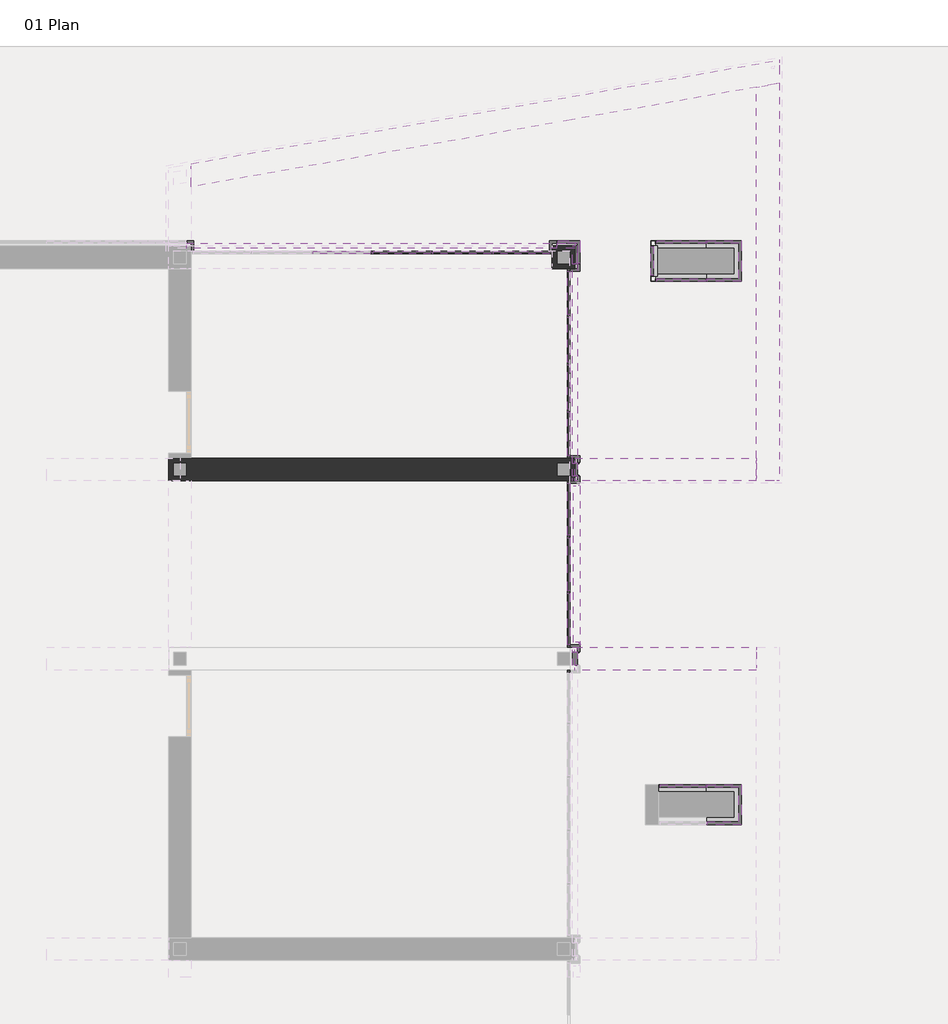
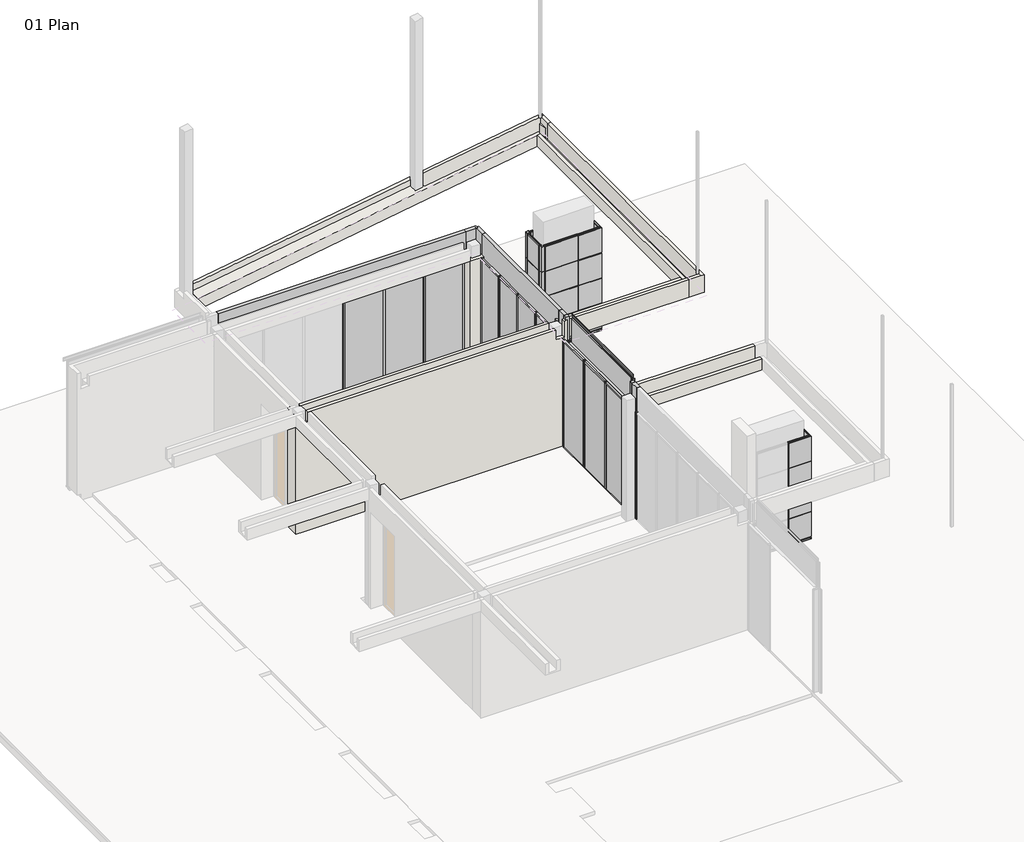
# One storey, part 4 of 5: 54 plates, 35 members, 6 walls.
"""IFC4 building model written with IfcOpenShell, lengths in millimetres."""

from ifc_helpers import new_model, si_unit, origin, place, context, project, spatial, faceted_brep, transform, mapped, element, save
from components import rectangular_mullion_f9ce9dc6, rectangular_mullion_e8d65c67, rectangular_mullion_c5e4a414, rectangular_mullion_c3e8b248, rectangular_mullion_bb8d6ff1, rectangular_mullion_e95caec2, rectangular_mullion_6a6b7c83, rectangular_mullion_8c2ecb36, rectangular_mullion_b7052393, rectangular_mullion_f1e0426e, rectangular_mullion_08edc9b5, rectangular_mullion_7d0be01b, rectangular_mullion_a8c58242, rectangular_mullion_3236e8af, plate_da8b7aa8, plate_97dfdc25, plate_eb0d2815, plate_6bd1128d, plate_987dd367, plate_21cbcbb2, plate_a826c487, plate_c5b51b30, plate_53742d8a, plate_d492e9c1, plate_1e91bede, plate_04bf2944, plate_0f2c33d4, plate_e64e6de2, plate_9abe25f3, plate_143d30e8, plate_e0696a3b, plate_b5d269c1, empty_system_panel_empty_786b6551, empty_system_panel_empty_7f93cfdc, empty_system_panel_empty_0363bcf5, empty_system_panel_empty_f8626ec1, empty_system_panel_empty_27e52b5e, empty_system_panel_empty_44f4aa2b, empty_system_panel_empty_4003d573, empty_system_panel_empty_db9f2a2a, empty_system_panel_empty_63036f14, empty_system_panel_empty_fa8af258, system_panel_6dfe1f31, system_panel_c846f28c, system_panel_06a197ed, system_panel_921365fd, system_panel_770c4b70, system_panel_3dbd57ef

model = new_model("IFC4")

# Units and contexts
model_context = context("Model", 3, world=origin())
ifc_project = project(units=[si_unit("LENGTHUNIT", "METRE", prefix="MILLI")], contexts=[model_context])

# Site, building, storey
site = spatial("IfcSite", under=ifc_project)
building = spatial("IfcBuilding", under=site)
storey = spatial("IfcBuildingStorey", under=building, Name="01 Plan", Elevation=-4000.0)

# Members
placement = place(None, origin())
rectangular_mullion_shape = rectangular_mullion_f9ce9dc6(model_context)
element("IfcMember", 1, ObjectType="Rectangular Mullion : Mullion_Curtain Wall_Generic Showcase_50x50mm", at=placement, inside=storey, context=model_context, shape_type="MappedRepresentation", body=[
    mapped(rectangular_mullion_shape, transform((3950.6615063, 4220.5895435, -650.0), x_axis=(0.0, 0.0, 1.0), y_axis=(-1.0, 0.0, 0.0), z_axis=(0.0, -1.0, 0.0))),
])
rectangular_mullion_2_shape = rectangular_mullion_e8d65c67(model_context)
element("IfcMember", 2, ObjectType="Rectangular Mullion : Mullion_Curtain Wall_Generic Showcase_50x50mm", at=placement, inside=storey, context=model_context, shape_type="MappedRepresentation", body=[
    mapped(rectangular_mullion_2_shape, transform((3600.6615063, 10945.5895435, -4100.0), x_axis=(1.0, 0.0, 0.0), y_axis=(0.0, -1.0, 0.0), z_axis=(0.0, 0.0, -1.0))),
])
element("IfcMember", 3, ObjectType="Rectangular Mullion : Mullion_Curtain Wall_Generic Showcase_50x50mm", at=placement, inside=storey, context=model_context, shape_type="MappedRepresentation", body=[
    mapped(rectangular_mullion_2_shape, transform((3950.6615063, 6845.5895435, -4100.0), x_axis=(0.0, -1.0, 0.0), y_axis=(-1.0, 0.0, 0.0), z_axis=(0.0, 0.0, -1.0))),
])
element("IfcMember", 4, ObjectType="Rectangular Mullion : Mullion_Curtain Wall_Generic Showcase_50x50mm", at=placement, inside=storey, context=model_context, shape_type="MappedRepresentation", body=[
    mapped(rectangular_mullion_2_shape, transform((3950.6615063, 3095.5895435, -4100.0), x_axis=(0.0, -1.0, 0.0), y_axis=(-1.0, 0.0, 0.0), z_axis=(0.0, 0.0, -1.0))),
])
element("IfcMember", 5, ObjectType="Rectangular Mullion : Mullion_Curtain Wall_Generic Showcase_50x50mm", at=placement, inside=storey, context=model_context, shape_type="MappedRepresentation", body=[
    mapped(rectangular_mullion_2_shape, transform((3950.6615063, 10595.5895435, -650.0), x_axis=(0.0, 1.0, 0.0), y_axis=(-1.0, 0.0, 0.0), z_axis=(0.0, 0.0, 1.0))),
])
element("IfcMember", 6, ObjectType="Rectangular Mullion : Mullion_Curtain Wall_Generic Showcase_50x50mm", at=placement, inside=storey, context=model_context, shape_type="MappedRepresentation", body=[
    mapped(rectangular_mullion_2_shape, transform((3950.6615063, 2645.5895435, -650.0), x_axis=(0.0, 1.0, 0.0), y_axis=(-1.0, 0.0, 0.0), z_axis=(0.0, 0.0, 1.0))),
])
element("IfcMember", 7, ObjectType="Rectangular Mullion : Mullion_Curtain Wall_Generic Showcase_50x50mm", at=placement, inside=storey, context=model_context, shape_type="MappedRepresentation", body=[
    mapped(rectangular_mullion_2_shape, transform((3950.6615063, 6395.5895435, -650.0), x_axis=(0.0, 1.0, 0.0), y_axis=(-1.0, 0.0, 0.0), z_axis=(0.0, 0.0, 1.0))),
])
rectangular_mullion_3_shape = rectangular_mullion_c5e4a414(model_context)
element("IfcMember", 8, ObjectType="Rectangular Mullion : Mullion_Curtain Wall_Generic Showcase_50x50mm", at=placement, inside=storey, context=model_context, shape_type="MappedRepresentation", body=[
    mapped(rectangular_mullion_3_shape, transform((3950.6615063, 7783.0895435, -4100.0), x_axis=(0.0, -1.0, 0.0), y_axis=(-1.0, 0.0, 0.0), z_axis=(0.0, 0.0, -1.0))),
])
element("IfcMember", 9, ObjectType="Rectangular Mullion : Mullion_Curtain Wall_Generic Showcase_50x50mm", at=placement, inside=storey, context=model_context, shape_type="MappedRepresentation", body=[
    mapped(rectangular_mullion_3_shape, transform((3950.6615063, 5295.5895435, -4100.0), x_axis=(0.0, -1.0, 0.0), y_axis=(-1.0, 0.0, 0.0), z_axis=(0.0, 0.0, -1.0))),
])
element("IfcMember", 10, ObjectType="Rectangular Mullion : Mullion_Curtain Wall_Generic Showcase_50x50mm", at=placement, inside=storey, context=model_context, shape_type="MappedRepresentation", body=[
    mapped(rectangular_mullion_3_shape, transform((3950.6615063, 4195.5895435, -4100.0), x_axis=(0.0, -1.0, 0.0), y_axis=(-1.0, 0.0, 0.0), z_axis=(0.0, 0.0, -1.0))),
])
element("IfcMember", 11, ObjectType="Rectangular Mullion : Mullion_Curtain Wall_Generic Showcase_50x50mm", at=placement, inside=storey, context=model_context, shape_type="MappedRepresentation", body=[
    mapped(rectangular_mullion_3_shape, transform((3950.6615063, 8720.5895435, -4100.0), x_axis=(0.0, -1.0, 0.0), y_axis=(-1.0, 0.0, 0.0), z_axis=(0.0, 0.0, -1.0))),
])
element("IfcMember", 12, ObjectType="Rectangular Mullion : Mullion_Curtain Wall_Generic Showcase_50x50mm", at=placement, inside=storey, context=model_context, shape_type="MappedRepresentation", body=[
    mapped(rectangular_mullion_3_shape, transform((3950.6615063, 9658.0895435, -4100.0), x_axis=(0.0, -1.0, 0.0), y_axis=(-1.0, 0.0, 0.0), z_axis=(0.0, 0.0, -1.0))),
])
element("IfcMember", 13, ObjectType="Rectangular Mullion : Mullion_Curtain Wall_Generic Showcase_50x50mm", at=placement, inside=storey, context=model_context, shape_type="MappedRepresentation", body=[
    mapped(rectangular_mullion_3_shape, transform((2408.9948396, 10945.5895435, -4100.0), x_axis=(1.0, 0.0, 0.0), y_axis=(0.0, -1.0, 0.0), z_axis=(0.0, 0.0, -1.0))),
])
element("IfcMember", 14, ObjectType="Rectangular Mullion : Mullion_Curtain Wall_Generic Showcase_50x50mm", at=placement, inside=storey, context=model_context, shape_type="MappedRepresentation", body=[
    mapped(rectangular_mullion_3_shape, transform((1217.328173, 10945.5895435, -4100.0), x_axis=(1.0, 0.0, 0.0), y_axis=(0.0, -1.0, 0.0), z_axis=(0.0, 0.0, -1.0))),
])
element("IfcMember", 15, ObjectType="Rectangular Mullion : Mullion_Curtain Wall_Generic Showcase_50x50mm", at=placement, inside=storey, context=model_context, shape_type="MappedRepresentation", body=[
    mapped(rectangular_mullion_3_shape, transform((25.6615063, 10945.5895435, -4100.0), x_axis=(1.0, 0.0, 0.0), y_axis=(0.0, -1.0, 0.0), z_axis=(0.0, 0.0, -1.0))),
])
rectangular_mullion_4_shape = rectangular_mullion_c3e8b248(model_context)
element("IfcMember", 16, ObjectType="Rectangular Mullion : Mullion_Curtain Wall_Generic Showcase_50x100mm", at=placement, inside=storey, context=model_context, shape_type="MappedRepresentation", body=[
    mapped(rectangular_mullion_4_shape, transform((3950.6615063, 5270.5895435, -4100.0), x_axis=(0.0, 0.0, -1.0), y_axis=(-1.0, 0.0, 0.0), z_axis=(0.0, 1.0, 0.0))),
])
rectangular_mullion_5_shape = rectangular_mullion_bb8d6ff1(model_context)
element("IfcMember", 17, ObjectType="Rectangular Mullion : Mullion_Curtain Wall_Generic Showcase_50x50mm", at=placement, inside=storey, context=model_context, shape_type="MappedRepresentation", body=[
    mapped(rectangular_mullion_5_shape, transform((2383.9948396, 10945.5895435, -650.0), x_axis=(0.0, 0.0, 1.0), y_axis=(0.0, -1.0, 0.0), z_axis=(1.0, 0.0, 0.0))),
])
element("IfcMember", 18, ObjectType="Rectangular Mullion : Mullion_Curtain Wall_Generic Showcase_50x50mm", at=placement, inside=storey, context=model_context, shape_type="MappedRepresentation", body=[
    mapped(rectangular_mullion_5_shape, transform((1192.328173, 10945.5895435, -650.0), x_axis=(0.0, 0.0, 1.0), y_axis=(0.0, -1.0, 0.0), z_axis=(1.0, 0.0, 0.0))),
])
element("IfcMember", 19, ObjectType="Rectangular Mullion : Mullion_Curtain Wall_Generic Showcase_50x50mm", at=placement, inside=storey, context=model_context, shape_type="MappedRepresentation", body=[
    mapped(rectangular_mullion_5_shape, transform((0.6615063, 10945.5895435, -650.0), x_axis=(0.0, 0.0, 1.0), y_axis=(0.0, -1.0, 0.0), z_axis=(1.0, 0.0, 0.0))),
])
rectangular_mullion_6_shape = rectangular_mullion_e95caec2(model_context)
element("IfcMember", 20, ObjectType="Rectangular Mullion : Mullion_Curtain Wall_Generic Showcase_50x100mm", at=placement, inside=storey, context=model_context, shape_type="MappedRepresentation", body=[
    mapped(rectangular_mullion_6_shape, transform((1242.328173, 10945.5895435, -4100.0), x_axis=(0.0, 0.0, -1.0), y_axis=(0.0, -1.0, 0.0), z_axis=(-1.0, 0.0, 0.0))),
])
element("IfcMember", 21, ObjectType="Rectangular Mullion : Mullion_Curtain Wall_Generic Showcase_50x100mm", at=placement, inside=storey, context=model_context, shape_type="MappedRepresentation", body=[
    mapped(rectangular_mullion_6_shape, transform((50.6615063, 10945.5895435, -4100.0), x_axis=(0.0, 0.0, -1.0), y_axis=(0.0, -1.0, 0.0), z_axis=(-1.0, 0.0, 0.0))),
])
rectangular_mullion_7_shape = rectangular_mullion_6a6b7c83(model_context)
element("IfcMember", 22, ObjectType="Rectangular Mullion : Mullion_Curtain Wall_Generic Showcase_50x50mm", at=placement, inside=storey, context=model_context, shape_type="MappedRepresentation", body=[
    mapped(rectangular_mullion_7_shape, transform((3950.6615063, 6895.5895435, -650.0), x_axis=(0.0, 0.0, 1.0), y_axis=(-1.0, 0.0, 0.0), z_axis=(0.0, -1.0, 0.0))),
])
element("IfcMember", 23, ObjectType="Rectangular Mullion : Mullion_Curtain Wall_Generic Showcase_50x50mm", at=placement, inside=storey, context=model_context, shape_type="MappedRepresentation", body=[
    mapped(rectangular_mullion_7_shape, transform((3950.6615063, 9683.0895435, -650.0), x_axis=(0.0, 0.0, 1.0), y_axis=(-1.0, 0.0, 0.0), z_axis=(0.0, -1.0, 0.0))),
])
rectangular_mullion_8_shape = rectangular_mullion_8c2ecb36(model_context)
element("IfcMember", 24, ObjectType="Rectangular Mullion : Mullion_Curtain Wall_Generic Showcase_50x50mm", at=placement, inside=storey, context=model_context, shape_type="MappedRepresentation", body=[
    mapped(rectangular_mullion_8_shape, transform((3950.6615063, 7808.0895435, -650.0), x_axis=(0.0, 0.0, 1.0), y_axis=(-1.0, 0.0, 0.0), z_axis=(0.0, -1.0, 0.0))),
])
element("IfcMember", 25, ObjectType="Rectangular Mullion : Mullion_Curtain Wall_Generic Showcase_50x50mm", at=placement, inside=storey, context=model_context, shape_type="MappedRepresentation", body=[
    mapped(rectangular_mullion_8_shape, transform((3950.6615063, 8745.5895435, -650.0), x_axis=(0.0, 0.0, 1.0), y_axis=(-1.0, 0.0, 0.0), z_axis=(0.0, -1.0, 0.0))),
])
rectangular_mullion_9_shape = rectangular_mullion_b7052393(model_context)
element("IfcMember", 26, ObjectType="Rectangular Mullion : Mullion_Curtain Wall_Generic Showcase_50x100mm", at=placement, inside=storey, context=model_context, shape_type="MappedRepresentation", body=[
    mapped(rectangular_mullion_9_shape, transform((3950.6615063, 10545.5895435, -4100.0), x_axis=(0.0, 0.0, -1.0), y_axis=(-1.0, 0.0, 0.0), z_axis=(0.0, 1.0, 0.0))),
])
element("IfcMember", 27, ObjectType="Rectangular Mullion : Mullion_Curtain Wall_Generic Showcase_50x100mm", at=placement, inside=storey, context=model_context, shape_type="MappedRepresentation", body=[
    mapped(rectangular_mullion_9_shape, transform((3950.6615063, 7758.0895435, -4100.0), x_axis=(0.0, 0.0, -1.0), y_axis=(-1.0, 0.0, 0.0), z_axis=(0.0, 1.0, 0.0))),
])
rectangular_mullion_10_shape = rectangular_mullion_f1e0426e(model_context)
element("IfcMember", 28, ObjectType="Rectangular Mullion : Mullion_Curtain Wall_Generic Showcase_50x100mm", at=placement, inside=storey, context=model_context, shape_type="MappedRepresentation", body=[
    mapped(rectangular_mullion_10_shape, transform((3950.6615063, 8695.5895435, -4100.0), x_axis=(0.0, 0.0, -1.0), y_axis=(-1.0, 0.0, 0.0), z_axis=(0.0, 1.0, 0.0))),
])
element("IfcMember", 29, ObjectType="Rectangular Mullion : Mullion_Curtain Wall_Generic Showcase_50x100mm", at=placement, inside=storey, context=model_context, shape_type="MappedRepresentation", body=[
    mapped(rectangular_mullion_10_shape, transform((3950.6615063, 9633.0895435, -4100.0), x_axis=(0.0, 0.0, -1.0), y_axis=(-1.0, 0.0, 0.0), z_axis=(0.0, 1.0, 0.0))),
])
rectangular_mullion_11_shape = rectangular_mullion_08edc9b5(model_context)
element("IfcMember", 30, ObjectType="Rectangular Mullion : Mullion_Curtain Wall_Generic Showcase_50x50mm", at=placement, inside=storey, context=model_context, shape_type="MappedRepresentation", body=[
    mapped(rectangular_mullion_11_shape, transform((3550.6615063, 10945.5895435, -650.0), x_axis=(0.0, 0.0, 1.0), y_axis=(0.0, -1.0, 0.0), z_axis=(1.0, 0.0, 0.0))),
])
rectangular_mullion_12_shape = rectangular_mullion_7d0be01b(model_context)
element("IfcMember", 31, ObjectType="Rectangular Mullion : Mullion_Curtain Wall_Generic Showcase_50x100mm", at=placement, inside=storey, context=model_context, shape_type="MappedRepresentation", body=[
    mapped(rectangular_mullion_12_shape, transform((2433.9948396, 10945.5895435, -4100.0), x_axis=(0.0, 0.0, -1.0), y_axis=(0.0, -1.0, 0.0), z_axis=(-1.0, 0.0, 0.0))),
])
rectangular_mullion_13_shape = rectangular_mullion_a8c58242(model_context)
element("IfcMember", 32, ObjectType="Rectangular Mullion : Mullion_Curtain Wall_Generic Showcase_50x50mm", at=placement, inside=storey, context=model_context, shape_type="MappedRepresentation", body=[
    mapped(rectangular_mullion_13_shape, transform((3950.6615063, 3145.5895435, -650.0), x_axis=(0.0, 0.0, 1.0), y_axis=(-1.0, 0.0, 0.0), z_axis=(0.0, -1.0, 0.0))),
])
element("IfcMember", 33, ObjectType="Rectangular Mullion : Mullion_Curtain Wall_Generic Showcase_50x50mm", at=placement, inside=storey, context=model_context, shape_type="MappedRepresentation", body=[
    mapped(rectangular_mullion_13_shape, transform((3950.6615063, 5320.5895435, -650.0), x_axis=(0.0, 0.0, 1.0), y_axis=(-1.0, 0.0, 0.0), z_axis=(0.0, -1.0, 0.0))),
])
rectangular_mullion_14_shape = rectangular_mullion_3236e8af(model_context)
element("IfcMember", 34, ObjectType="Rectangular Mullion : Mullion_Curtain Wall_Generic Showcase_50x100mm", at=placement, inside=storey, context=model_context, shape_type="MappedRepresentation", body=[
    mapped(rectangular_mullion_14_shape, transform((3950.6615063, 6345.5895435, -4100.0), x_axis=(0.0, 0.0, -1.0), y_axis=(-1.0, 0.0, 0.0), z_axis=(0.0, 1.0, 0.0))),
])
element("IfcMember", 35, ObjectType="Rectangular Mullion : Mullion_Curtain Wall_Generic Showcase_50x100mm", at=placement, inside=storey, context=model_context, shape_type="MappedRepresentation", body=[
    mapped(rectangular_mullion_14_shape, transform((3950.6615063, 4170.5895435, -4100.0), x_axis=(0.0, 0.0, -1.0), y_axis=(-1.0, 0.0, 0.0), z_axis=(0.0, 1.0, 0.0))),
])

# Plates
plate_shape = plate_da8b7aa8(model_context)
element("IfcPlate", 36, ObjectType="Trimo_Qbiss Screen_Normal Panel-HORIZONTAL : HR - B", at=placement, inside=storey, context=model_context, shape_type="MappedRepresentation", body=[
    mapped(plate_shape, transform((4050.6615063, 4745.5895435, -748.2), x_axis=(0.0, -1.0, 0.0), y_axis=(1.0, 0.0, 0.0), z_axis=(0.0, 0.0, 1.0))),
])
plate_2_shape = plate_97dfdc25(model_context)
element("IfcPlate", 37, ObjectType="Trimo_Qbiss Screen_L Corner Panel-HORIZONTAL : HR - B", at=placement, inside=storey, context=model_context, shape_type="MappedRepresentation", body=[
    mapped(plate_2_shape, transform((3874.4115063, 11045.5895435, -3112.05), x_axis=(1.0, 0.0, 0.0), y_axis=(0.0, 1.0, 0.0), z_axis=(0.0, 0.0, 1.0))),
])
element("IfcPlate", 38, ObjectType="Trimo_Qbiss Screen_L Corner Panel-HORIZONTAL : HR - B", at=placement, inside=storey, context=model_context, shape_type="MappedRepresentation", body=[
    mapped(plate_2_shape, transform((3874.4115063, 11045.5895435, -2324.1), x_axis=(1.0, 0.0, 0.0), y_axis=(0.0, 1.0, 0.0), z_axis=(0.0, 0.0, 1.0))),
])
element("IfcPlate", 39, ObjectType="Trimo_Qbiss Screen_L Corner Panel-HORIZONTAL : HR - B", at=placement, inside=storey, context=model_context, shape_type="MappedRepresentation", body=[
    mapped(plate_2_shape, transform((3874.4115063, 11045.5895435, -1536.15), x_axis=(1.0, 0.0, 0.0), y_axis=(0.0, 1.0, 0.0), z_axis=(0.0, 0.0, 1.0))),
])
plate_3_shape = plate_eb0d2815(model_context)
element("IfcPlate", 40, ObjectType="Trimo_Qbiss Screen_L Corner Panel-HORIZONTAL : HR - B", at=placement, inside=storey, context=model_context, shape_type="MappedRepresentation", body=[
    mapped(plate_3_shape, transform((3874.4115063, 11045.5895435, -3900.0), x_axis=(1.0, 0.0, 0.0), y_axis=(0.0, 1.0, 0.0), z_axis=(0.0, 0.0, 1.0))),
])
plate_4_shape = plate_6bd1128d(model_context)
element("IfcPlate", 41, ObjectType="Trimo_Qbiss Screen_Normal Panel-HORIZONTAL : HR - B", at=placement, inside=storey, context=model_context, shape_type="MappedRepresentation", body=[
    mapped(plate_4_shape, transform((5700.6615063, 10748.0895435, -1536.15), x_axis=(0.0, 1.0, 0.0), y_axis=(-1.0, 0.0, 0.0), z_axis=(0.0, 0.0, 1.0))),
])
element("IfcPlate", 42, ObjectType="Trimo_Qbiss Screen_Normal Panel-HORIZONTAL : HR - B", at=placement, inside=storey, context=model_context, shape_type="MappedRepresentation", body=[
    mapped(plate_4_shape, transform((5700.6615063, 10748.0895435, -2324.1), x_axis=(0.0, 1.0, 0.0), y_axis=(-1.0, 0.0, 0.0), z_axis=(0.0, 0.0, 1.0))),
])
element("IfcPlate", 43, ObjectType="Trimo_Qbiss Screen_Normal Panel-HORIZONTAL : HR - B", at=placement, inside=storey, context=model_context, shape_type="MappedRepresentation", body=[
    mapped(plate_4_shape, transform((5700.6615063, 10748.0895435, -3112.05), x_axis=(0.0, 1.0, 0.0), y_axis=(-1.0, 0.0, 0.0), z_axis=(0.0, 0.0, 1.0))),
])
plate_5_shape = plate_987dd367(model_context)
element("IfcPlate", 44, ObjectType="Trimo_Qbiss Screen_Normal Panel-HORIZONTAL : HR - B", at=placement, inside=storey, context=model_context, shape_type="MappedRepresentation", body=[
    mapped(plate_5_shape, transform((6179.4115063, 11000.5895435, -2324.1), x_axis=(1.0, 0.0, 0.0), y_axis=(0.0, 1.0, 0.0), z_axis=(0.0, 0.0, 1.0))),
])
element("IfcPlate", 45, ObjectType="Trimo_Qbiss Screen_Normal Panel-HORIZONTAL : HR - B", at=placement, inside=storey, context=model_context, shape_type="MappedRepresentation", body=[
    mapped(plate_5_shape, transform((6179.4115063, 11000.5895435, -1536.15), x_axis=(1.0, 0.0, 0.0), y_axis=(0.0, 1.0, 0.0), z_axis=(0.0, 0.0, 1.0))),
])
element("IfcPlate", 46, ObjectType="Trimo_Qbiss Screen_Normal Panel-HORIZONTAL : HR - B", at=placement, inside=storey, context=model_context, shape_type="MappedRepresentation", body=[
    mapped(plate_5_shape, transform((6179.4115063, 11000.5895435, -3112.05), x_axis=(1.0, 0.0, 0.0), y_axis=(0.0, 1.0, 0.0), z_axis=(0.0, 0.0, 1.0))),
])
plate_6_shape = plate_21cbcbb2(model_context)
element("IfcPlate", 47, ObjectType="Trimo_Qbiss Screen_Normal Panel-HORIZONTAL : HR - B", at=placement, inside=storey, context=model_context, shape_type="MappedRepresentation", body=[
    mapped(plate_6_shape, transform((6179.4115063, 11000.5895435, -3900.0), x_axis=(1.0, 0.0, 0.0), y_axis=(0.0, 1.0, 0.0), z_axis=(0.0, 0.0, 1.0))),
])
plate_7_shape = plate_a826c487(model_context)
element("IfcPlate", 48, ObjectType="Trimo_Qbiss Screen_Normal Panel-HORIZONTAL : HR - B", at=placement, inside=storey, context=model_context, shape_type="MappedRepresentation", body=[
    mapped(plate_7_shape, transform((5700.6615063, 10748.0895435, -3900.0), x_axis=(0.0, 1.0, 0.0), y_axis=(-1.0, 0.0, 0.0), z_axis=(0.0, 0.0, 1.0))),
])
plate_8_shape = plate_c5b51b30(model_context)
element("IfcPlate", 49, ObjectType="Trimo_Qbiss Screen_Normal Panel-HORIZONTAL : HR - B", at=placement, inside=storey, context=model_context, shape_type="MappedRepresentation", body=[
    mapped(plate_8_shape, transform((6179.4115063, 10495.5895435, -3900.0), x_axis=(-1.0, 0.0, 0.0), y_axis=(0.0, -1.0, 0.0), z_axis=(0.0, 0.0, 1.0))),
])
plate_9_shape = plate_53742d8a(model_context)
element("IfcPlate", 50, ObjectType="Trimo_Qbiss Screen_Normal Panel-HORIZONTAL : HR - B", at=placement, inside=storey, context=model_context, shape_type="MappedRepresentation", body=[
    mapped(plate_9_shape, transform((6179.4115063, 10495.5895435, -2324.1), x_axis=(-1.0, 0.0, 0.0), y_axis=(0.0, -1.0, 0.0), z_axis=(0.0, 0.0, 1.0))),
])
element("IfcPlate", 51, ObjectType="Trimo_Qbiss Screen_Normal Panel-HORIZONTAL : HR - B", at=placement, inside=storey, context=model_context, shape_type="MappedRepresentation", body=[
    mapped(plate_9_shape, transform((6179.4115063, 10495.5895435, -1536.15), x_axis=(-1.0, 0.0, 0.0), y_axis=(0.0, -1.0, 0.0), z_axis=(0.0, 0.0, 1.0))),
])
element("IfcPlate", 52, ObjectType="Trimo_Qbiss Screen_Normal Panel-HORIZONTAL : HR - B", at=placement, inside=storey, context=model_context, shape_type="MappedRepresentation", body=[
    mapped(plate_9_shape, transform((6179.4115063, 10495.5895435, -3112.05), x_axis=(-1.0, 0.0, 0.0), y_axis=(0.0, -1.0, 0.0), z_axis=(0.0, 0.0, 1.0))),
])
plate_10_shape = plate_d492e9c1(model_context)
element("IfcPlate", 53, ObjectType="Trimo_Qbiss Screen_Wall Opening Trims-HORIZONTAL : HR - B", at=placement, inside=storey, context=model_context, shape_type="MappedRepresentation", body=[
    mapped(plate_10_shape, transform((25.6615063, 11045.5895435, -4000.0), x_axis=(1.0, 0.0, 0.0), y_axis=(0.0, 1.0, 0.0), z_axis=(0.0, 0.0, 1.0))),
])
plate_11_shape = plate_1e91bede(model_context)
element("IfcPlate", 54, ObjectType="Trimo_Qbiss Screen_Wall Opening Trims-HORIZONTAL : HR - B", at=placement, inside=storey, context=model_context, shape_type="MappedRepresentation", body=[
    mapped(plate_11_shape, transform((4050.6615063, 4745.5895435, -4000.0), x_axis=(0.0, -1.0, 0.0), y_axis=(1.0, 0.0, 0.0), z_axis=(0.0, 0.0, 1.0))),
])
plate_12_shape = plate_04bf2944(model_context)
element("IfcPlate", 55, ObjectType="Trimo_Qbiss Screen_Wall Opening Trims-HORIZONTAL : HR - B", at=placement, inside=storey, context=model_context, shape_type="MappedRepresentation", body=[
    mapped(plate_12_shape, transform((4050.6615063, 8720.1895435, -4000.0), x_axis=(0.0, -1.0, 0.0), y_axis=(1.0, 0.0, 0.0), z_axis=(0.0, 0.0, 1.0))),
])
plate_13_shape = plate_0f2c33d4(model_context)
element("IfcPlate", 56, ObjectType="Trimo_Qbiss Screen_U Corner Panel-HORIZONTAL : HR - B", at=placement, inside=storey, context=model_context, shape_type="MappedRepresentation", body=[
    mapped(plate_13_shape, transform((6970.6615063, 11000.5895435, -3900.0), x_axis=(1.0, 0.0, 0.0), y_axis=(0.0, 1.0, 0.0), z_axis=(0.0, 0.0, 1.0))),
])
plate_14_shape = plate_e64e6de2(model_context)
element("IfcPlate", 57, ObjectType="Trimo_Qbiss Screen_U Corner Panel-HORIZONTAL : HR - B", at=placement, inside=storey, context=model_context, shape_type="MappedRepresentation", body=[
    mapped(plate_14_shape, transform((6970.6615063, 11000.5895435, -1536.15), x_axis=(1.0, 0.0, 0.0), y_axis=(0.0, 1.0, 0.0), z_axis=(0.0, 0.0, 1.0))),
])
element("IfcPlate", 58, ObjectType="Trimo_Qbiss Screen_U Corner Panel-HORIZONTAL : HR - B", at=placement, inside=storey, context=model_context, shape_type="MappedRepresentation", body=[
    mapped(plate_14_shape, transform((6970.6615063, 11000.5895435, -2324.1), x_axis=(1.0, 0.0, 0.0), y_axis=(0.0, 1.0, 0.0), z_axis=(0.0, 0.0, 1.0))),
])
element("IfcPlate", 59, ObjectType="Trimo_Qbiss Screen_U Corner Panel-HORIZONTAL : HR - B", at=placement, inside=storey, context=model_context, shape_type="MappedRepresentation", body=[
    mapped(plate_14_shape, transform((6970.6615063, 11000.5895435, -3112.05), x_axis=(1.0, 0.0, 0.0), y_axis=(0.0, 1.0, 0.0), z_axis=(0.0, 0.0, 1.0))),
])
plate_15_shape = plate_9abe25f3(model_context)
element("IfcPlate", 60, ObjectType="Trimo_Qbiss Screen_Normal Panel-HORIZONTAL : HR - B", at=placement, inside=storey, context=model_context, shape_type="MappedRepresentation", body=[
    mapped(plate_15_shape, transform((6179.4115063, 233.0895435, -3900.0), x_axis=(1.0, 0.0, 0.0), y_axis=(0.0, 1.0, 0.0), z_axis=(0.0, 0.0, 1.0))),
])
plate_16_shape = plate_143d30e8(model_context)
element("IfcPlate", 61, ObjectType="Trimo_Qbiss Screen_Normal Panel-HORIZONTAL : HR - B", at=placement, inside=storey, context=model_context, shape_type="MappedRepresentation", body=[
    mapped(plate_16_shape, transform((6179.4115063, 233.0895435, -2324.1), x_axis=(1.0, 0.0, 0.0), y_axis=(0.0, 1.0, 0.0), z_axis=(0.0, 0.0, 1.0))),
])
element("IfcPlate", 62, ObjectType="Trimo_Qbiss Screen_Normal Panel-HORIZONTAL : HR - B", at=placement, inside=storey, context=model_context, shape_type="MappedRepresentation", body=[
    mapped(plate_16_shape, transform((6179.4115063, 233.0895435, -1536.15), x_axis=(1.0, 0.0, 0.0), y_axis=(0.0, 1.0, 0.0), z_axis=(0.0, 0.0, 1.0))),
])
element("IfcPlate", 63, ObjectType="Trimo_Qbiss Screen_Normal Panel-HORIZONTAL : HR - B", at=placement, inside=storey, context=model_context, shape_type="MappedRepresentation", body=[
    mapped(plate_16_shape, transform((6179.4115063, 233.0895435, -3112.05), x_axis=(1.0, 0.0, 0.0), y_axis=(0.0, 1.0, 0.0), z_axis=(0.0, 0.0, 1.0))),
])
plate_17_shape = plate_e0696a3b(model_context)
element("IfcPlate", 64, ObjectType="Trimo_Qbiss Screen_U Corner Panel-HORIZONTAL : HR - B", at=placement, inside=storey, context=model_context, shape_type="MappedRepresentation", body=[
    mapped(plate_17_shape, transform((6970.6615063, 233.0895435, -1536.15), x_axis=(1.0, 0.0, 0.0), y_axis=(0.0, 1.0, 0.0), z_axis=(0.0, 0.0, 1.0))),
])
element("IfcPlate", 65, ObjectType="Trimo_Qbiss Screen_U Corner Panel-HORIZONTAL : HR - B", at=placement, inside=storey, context=model_context, shape_type="MappedRepresentation", body=[
    mapped(plate_17_shape, transform((6970.6615063, 233.0895435, -2324.1), x_axis=(1.0, 0.0, 0.0), y_axis=(0.0, 1.0, 0.0), z_axis=(0.0, 0.0, 1.0))),
])
element("IfcPlate", 66, ObjectType="Trimo_Qbiss Screen_U Corner Panel-HORIZONTAL : HR - B", at=placement, inside=storey, context=model_context, shape_type="MappedRepresentation", body=[
    mapped(plate_17_shape, transform((6970.6615063, 233.0895435, -3112.05), x_axis=(1.0, 0.0, 0.0), y_axis=(0.0, 1.0, 0.0), z_axis=(0.0, 0.0, 1.0))),
])
plate_18_shape = plate_b5d269c1(model_context)
element("IfcPlate", 67, ObjectType="Trimo_Qbiss Screen_U Corner Panel-HORIZONTAL : HR - B", at=placement, inside=storey, context=model_context, shape_type="MappedRepresentation", body=[
    mapped(plate_18_shape, transform((6970.6615063, 233.0895435, -3900.0), x_axis=(1.0, 0.0, 0.0), y_axis=(0.0, 1.0, 0.0), z_axis=(0.0, 0.0, 1.0))),
])
empty_system_panel_empty_shape = empty_system_panel_empty_786b6551(model_context)
element("IfcPlate", 68, ObjectType="Empty System Panel : Empty", at=placement, inside=storey, context=model_context, shape_type="MappedRepresentation", body=[
    mapped(empty_system_panel_empty_shape, transform((25.6615063, 11045.5895435, -748.2), x_axis=(1.0, 0.0, 0.0), y_axis=(0.0, 1.0, 0.0), z_axis=(0.0, 0.0, 1.0))),
])
empty_system_panel_empty_2_shape = empty_system_panel_empty_7f93cfdc(model_context)
element("IfcPlate", 69, ObjectType="Empty System Panel : Empty", at=placement, inside=storey, context=model_context, shape_type="MappedRepresentation", body=[
    mapped(empty_system_panel_empty_2_shape, transform((3874.4115063, 11045.5895435, -748.2), x_axis=(1.0, 0.0, 0.0), y_axis=(0.0, 1.0, 0.0), z_axis=(0.0, 0.0, 1.0))),
])
element("IfcPlate", 70, ObjectType="Empty System Panel : Empty", at=placement, inside=storey, context=model_context, shape_type="MappedRepresentation", body=[
    mapped(empty_system_panel_empty_2_shape, transform((4050.6615063, 10869.3395435, -748.2), x_axis=(0.0, -1.0, 0.0), y_axis=(1.0, 0.0, 0.0), z_axis=(0.0, 0.0, 1.0))),
])
empty_system_panel_empty_3_shape = empty_system_panel_empty_0363bcf5(model_context)
element("IfcPlate", 71, ObjectType="Empty System Panel : Empty", at=placement, inside=storey, context=model_context, shape_type="MappedRepresentation", body=[
    mapped(empty_system_panel_empty_3_shape, transform((4050.6615063, 2870.5895435, -748.2), x_axis=(0.0, -1.0, 0.0), y_axis=(1.0, 0.0, 0.0), z_axis=(0.0, 0.0, 1.0))),
])
empty_system_panel_empty_4_shape = empty_system_panel_empty_f8626ec1(model_context)
element("IfcPlate", 72, ObjectType="Empty System Panel : Empty", at=placement, inside=storey, context=model_context, shape_type="MappedRepresentation", body=[
    mapped(empty_system_panel_empty_4_shape, transform((4050.6615063, 6444.3395435, -748.2), x_axis=(0.0, -1.0, 0.0), y_axis=(1.0, 0.0, 0.0), z_axis=(0.0, 0.0, 1.0))),
])
element("IfcPlate", 73, ObjectType="Empty System Panel : Empty", at=placement, inside=storey, context=model_context, shape_type="MappedRepresentation", body=[
    mapped(empty_system_panel_empty_4_shape, transform((4050.6615063, 3046.8395435, -748.2), x_axis=(0.0, -1.0, 0.0), y_axis=(1.0, 0.0, 0.0), z_axis=(0.0, 0.0, 1.0))),
])
empty_system_panel_empty_5_shape = empty_system_panel_empty_27e52b5e(model_context)
element("IfcPlate", 74, ObjectType="Empty System Panel : Empty", at=placement, inside=storey, context=model_context, shape_type="MappedRepresentation", body=[
    mapped(empty_system_panel_empty_5_shape, transform((4050.6615063, 8720.1895435, -748.2), x_axis=(0.0, -1.0, 0.0), y_axis=(1.0, 0.0, 0.0), z_axis=(0.0, 0.0, 1.0))),
])
empty_system_panel_empty_6_shape = empty_system_panel_empty_44f4aa2b(model_context)
element("IfcPlate", 75, ObjectType="Empty System Panel : Empty", at=placement, inside=storey, context=model_context, shape_type="MappedRepresentation", body=[
    mapped(empty_system_panel_empty_6_shape, transform((4050.6615063, 6620.1895435, -748.2), x_axis=(0.0, -1.0, 0.0), y_axis=(1.0, 0.0, 0.0), z_axis=(0.0, 0.0, 1.0))),
])
empty_system_panel_empty_7_shape = empty_system_panel_empty_4003d573(model_context)
element("IfcPlate", 76, ObjectType="Empty System Panel : Empty", at=placement, inside=storey, context=model_context, shape_type="MappedRepresentation", body=[
    mapped(empty_system_panel_empty_7_shape, transform((3874.4115063, 11045.5895435, -4000.0), x_axis=(1.0, 0.0, 0.0), y_axis=(0.0, 1.0, 0.0), z_axis=(0.0, 0.0, 1.0))),
])
empty_system_panel_empty_8_shape = empty_system_panel_empty_db9f2a2a(model_context)
element("IfcPlate", 77, ObjectType="Empty System Panel : Empty", at=placement, inside=storey, context=model_context, shape_type="MappedRepresentation", body=[
    mapped(empty_system_panel_empty_8_shape, transform((4050.6615063, 10869.3395435, -4000.0), x_axis=(0.0, -1.0, 0.0), y_axis=(1.0, 0.0, 0.0), z_axis=(0.0, 0.0, 1.0))),
])
empty_system_panel_empty_9_shape = empty_system_panel_empty_63036f14(model_context)
element("IfcPlate", 78, ObjectType="Empty System Panel : Empty", at=placement, inside=storey, context=model_context, shape_type="MappedRepresentation", body=[
    mapped(empty_system_panel_empty_9_shape, transform((4050.6615063, 2870.5895435, -4000.0), x_axis=(0.0, -1.0, 0.0), y_axis=(1.0, 0.0, 0.0), z_axis=(0.0, 0.0, 1.0))),
])
empty_system_panel_empty_10_shape = empty_system_panel_empty_fa8af258(model_context)
element("IfcPlate", 79, ObjectType="Empty System Panel : Empty", at=placement, inside=storey, context=model_context, shape_type="MappedRepresentation", body=[
    mapped(empty_system_panel_empty_10_shape, transform((4050.6615063, 6620.1895435, -4000.0), x_axis=(0.0, -1.0, 0.0), y_axis=(1.0, 0.0, 0.0), z_axis=(0.0, 0.0, 1.0))),
])
system_panel_shape = system_panel_6dfe1f31(model_context)
element("IfcPlate", 80, ObjectType="System Panel : Panel_Glazed_Generic Showcase_30mm", at=placement, inside=storey, context=model_context, shape_type="MappedRepresentation", body=[
    mapped(system_panel_shape, transform((3950.6615063, 4745.5895435, -4000.0), x_axis=(0.0, -1.0, 0.0), y_axis=(1.0, 0.0, 0.0), z_axis=(0.0, 0.0, 1.0))),
])
system_panel_2_shape = system_panel_c846f28c(model_context)
element("IfcPlate", 81, ObjectType="System Panel : Panel_Glazed_Generic Showcase_30mm", at=placement, inside=storey, context=model_context, shape_type="MappedRepresentation", body=[
    mapped(system_panel_2_shape, transform((1813.1615063, 10945.5895435, -4000.0), x_axis=(1.0, 0.0, 0.0), y_axis=(0.0, 1.0, 0.0), z_axis=(0.0, 0.0, 1.0))),
])
element("IfcPlate", 82, ObjectType="System Panel : Panel_Glazed_Generic Showcase_30mm", at=placement, inside=storey, context=model_context, shape_type="MappedRepresentation", body=[
    mapped(system_panel_2_shape, transform((621.4948396, 10945.5895435, -4000.0), x_axis=(1.0, 0.0, 0.0), y_axis=(0.0, 1.0, 0.0), z_axis=(0.0, 0.0, 1.0))),
])
system_panel_3_shape = system_panel_06a197ed(model_context)
element("IfcPlate", 83, ObjectType="System Panel : Panel_Glazed_Generic Showcase_30mm", at=placement, inside=storey, context=model_context, shape_type="MappedRepresentation", body=[
    mapped(system_panel_3_shape, transform((3950.6615063, 10114.3395435, -4000.0), x_axis=(0.0, -1.0, 0.0), y_axis=(1.0, 0.0, 0.0), z_axis=(0.0, 0.0, 1.0))),
])
element("IfcPlate", 84, ObjectType="System Panel : Panel_Glazed_Generic Showcase_30mm", at=placement, inside=storey, context=model_context, shape_type="MappedRepresentation", body=[
    mapped(system_panel_3_shape, transform((3950.6615063, 7326.8395435, -4000.0), x_axis=(0.0, -1.0, 0.0), y_axis=(1.0, 0.0, 0.0), z_axis=(0.0, 0.0, 1.0))),
])
system_panel_4_shape = system_panel_921365fd(model_context)
element("IfcPlate", 85, ObjectType="System Panel : Panel_Glazed_Generic Showcase_30mm", at=placement, inside=storey, context=model_context, shape_type="MappedRepresentation", body=[
    mapped(system_panel_4_shape, transform((3950.6615063, 8251.8395435, -4000.0), x_axis=(0.0, -1.0, 0.0), y_axis=(1.0, 0.0, 0.0), z_axis=(0.0, 0.0, 1.0))),
])
element("IfcPlate", 86, ObjectType="System Panel : Panel_Glazed_Generic Showcase_30mm", at=placement, inside=storey, context=model_context, shape_type="MappedRepresentation", body=[
    mapped(system_panel_4_shape, transform((3950.6615063, 9189.3395435, -4000.0), x_axis=(0.0, -1.0, 0.0), y_axis=(1.0, 0.0, 0.0), z_axis=(0.0, 0.0, 1.0))),
])
system_panel_5_shape = system_panel_770c4b70(model_context)
element("IfcPlate", 87, ObjectType="System Panel : Panel_Glazed_Generic Showcase_30mm", at=placement, inside=storey, context=model_context, shape_type="MappedRepresentation", body=[
    mapped(system_panel_5_shape, transform((2992.328173, 10945.5895435, -4000.0), x_axis=(1.0, 0.0, 0.0), y_axis=(0.0, 1.0, 0.0), z_axis=(0.0, 0.0, 1.0))),
])
system_panel_6_shape = system_panel_3dbd57ef(model_context)
element("IfcPlate", 88, ObjectType="System Panel : Panel_Glazed_Generic Showcase_30mm", at=placement, inside=storey, context=model_context, shape_type="MappedRepresentation", body=[
    mapped(system_panel_6_shape, transform((3950.6615063, 3658.0895435, -4000.0), x_axis=(0.0, -1.0, 0.0), y_axis=(1.0, 0.0, 0.0), z_axis=(0.0, 0.0, 1.0))),
])
element("IfcPlate", 89, ObjectType="System Panel : Panel_Glazed_Generic Showcase_30mm", at=placement, inside=storey, context=model_context, shape_type="MappedRepresentation", body=[
    mapped(system_panel_6_shape, transform((3950.6615063, 5833.0895435, -4000.0), x_axis=(0.0, -1.0, 0.0), y_axis=(1.0, 0.0, 0.0), z_axis=(0.0, 0.0, 1.0))),
])

# Walls
element("IfcWall", 90, ObjectType="Wall_Interior_Generic Showcase_450mm", at=placement, inside=storey, context=model_context, shape_type="Brep", body=[
    faceted_brep([(4050.6615063, 6845.5895435, -4100.0), (-3549.3384937, 6845.5895435, -4100.0), (-3999.3384937, 6845.5895435, -4100.0), (-3999.3384937, 6845.5895435, -4000.0), (-3999.3384937, 6845.5895435, -300.0), (-3899.3384937, 6845.5895435, -300.0), (-3899.3384937, 6845.5895435, -600.0), (-3649.3384937, 6845.5895435, -600.0), (-3649.3384937, 6845.5895435, -300.0), (-3549.3384937, 6845.5895435, -300.0), (3600.6615063, 6845.5895435, -300.0), (3700.6615063, 6845.5895435, -300.0), (3700.6615063, 6845.5895435, -600.0), (3950.6615063, 6845.5895435, -600.0), (3950.6615063, 6845.5895435, -300.0), (4050.6615063, 6845.5895435, -300.0), (4050.6615063, 6845.5895435, -650.0), (4050.6615063, 6395.5895435, -4100.0), (4050.6615063, 6395.5895435, -650.0), (4050.6615063, 6395.5895435, -100.0), (3950.6615063, 6395.5895435, -100.0), (3950.6615063, 6395.5895435, -600.0), (3700.6615063, 6395.5895435, -600.0), (3700.6615063, 6395.5895435, -300.0), (3600.6615063, 6395.5895435, -300.0), (-3549.3384937, 6395.5895435, -300.0), (-3649.3384937, 6395.5895435, -300.0), (-3649.3384937, 6395.5895435, -600.0), (-3899.3384937, 6395.5895435, -600.0), (-3899.3384937, 6395.5895435, -300.0), (-3999.3384937, 6395.5895435, -300.0), (-3999.3384937, 6395.5895435, -650.0), (-3999.3384937, 6395.5895435, -4000.0), (-3999.3384937, 6395.5895435, -4100.0), (3900.6615063, 6395.5895435, -4100.0), (-3649.3384937, 6495.5895435, -4100.0), (-3649.3384937, 6745.5895435, -4100.0), (-3899.3384937, 6745.5895435, -4100.0), (-3899.3384937, 6495.5895435, -4100.0), (3950.6615063, 6495.5895435, -4100.0), (3950.6615063, 6745.5895435, -4100.0), (3700.6615063, 6745.5895435, -4100.0), (3700.6615063, 6495.5895435, -4100.0), (4050.6615063, 6495.5895435, -100.0), (3950.6615063, 6495.5895435, -100.0), (4050.6615063, 6745.5895435, -300.0), (4050.6615063, 6745.5895435, -600.0), (4050.6615063, 6495.5895435, -600.0), (-3899.3384937, 6495.5895435, -300.0), (-3899.3384937, 6495.5895435, -600.0), (-3999.3384937, 6495.5895435, -600.0), (-3999.3384937, 6495.5895435, -300.0), (-3649.3384937, 6495.5895435, -600.0), (-3649.3384937, 6495.5895435, -300.0), (3700.6615063, 6495.5895435, -300.0), (3700.6615063, 6495.5895435, -600.0), (3950.6615063, 6495.5895435, -600.0), (3950.6615063, 6495.5895435, -300.0), (-3899.3384937, 6745.5895435, -600.0), (-3649.3384937, 6745.5895435, -600.0), (-3999.3384937, 6745.5895435, -600.0), (3700.6615063, 6745.5895435, -600.0), (3950.6615063, 6745.5895435, -600.0), (-3899.3384937, 6745.5895435, -300.0), (-3999.3384937, 6745.5895435, -300.0), (-3649.3384937, 6745.5895435, -300.0), (3700.6615063, 6745.5895435, -300.0), (3950.6615063, 6745.5895435, -300.0)], [[[0, 1, 2, 3, 4, 5, 6, 7, 8, 9, 10, 11, 12, 13, 14, 15, 16]], [[17, 18, 19, 20, 21, 22, 23, 24, 25, 26, 27, 28, 29, 30, 31, 32, 33, 34]], [[2, 1, 0, 17, 34, 33], [35, 36, 37, 38], [39, 40, 41, 42]], [[19, 43, 44, 20]], [[19, 18, 17, 0, 16, 15, 45, 46, 47, 43]], [[48, 49, 50, 51]], [[52, 53, 54, 55]], [[56, 39, 42, 55]], [[56, 57, 44, 43, 47]], [[7, 6, 58, 59]], [[60, 50, 49, 58]], [[28, 27, 52, 49]], [[59, 52, 55, 61]], [[47, 46, 62, 56]], [[58, 63, 64, 60]], [[65, 59, 61, 66]], [[46, 45, 67, 62]], [[40, 62, 61, 41]], [[6, 5, 63, 58]], [[29, 28, 49, 48]], [[8, 7, 59, 65]], [[27, 26, 53, 52]], [[35, 52, 59, 36]], [[38, 49, 52, 35]], [[49, 38, 37, 58]], [[58, 37, 36, 59]], [[2, 33, 32, 31, 30, 51, 50, 60, 64, 4, 3]], [[8, 65, 66, 11, 10, 9]], [[53, 26, 25, 24, 23, 54]], [[5, 4, 64, 63]], [[30, 29, 48, 51]], [[45, 15, 14, 67]], [[20, 44, 57, 56, 21]], [[13, 62, 67, 14]], [[39, 56, 62, 40]], [[55, 42, 41, 61]], [[61, 12, 11, 66]], [[22, 55, 54, 23]], [[12, 61, 62, 13]], [[55, 22, 21, 56]]]),
])
element("IfcWall", 91, ObjectType="Wall_Exterior_Generic Showcase_450mm", at=placement, inside=storey, context=model_context, shape_type="Brep", body=[
    faceted_brep([(-3549.3384937, 12217.9947095, -650.0), (3600.6615063, 13478.7326215, -650.0), (4050.6615063, 13558.0797629, -650.0), (7650.6615063, 14192.8568934, -650.0), (8100.6615063, 14272.2040347, -650.0), (8100.6615063, 14272.2040347, -100.0), (8000.6615063, 14254.5713367, -100.0), (8000.6615063, 14254.5713367, -600.0), (7750.6615063, 14210.4895915, -600.0), (7750.6615063, 14210.4895915, -300.0), (7650.6615063, 14192.8568934, -300.0), (4050.6615063, 13558.0797629, -300.0), (3600.6615063, 13478.7326215, -300.0), (-3549.3384937, 12217.9947095, -300.0), (-3549.3384937, 12674.9366848, -650.0), (-3549.3384937, 12674.9366848, -100.0), (4000.6615063, 14006.2053892, -100.0), (8100.6615063, 14729.1460101, -100.0), (8100.6615063, 14729.1460101, -650.0), (-3549.3384937, 12573.3940236, -650.0), (-3549.3384937, 12573.3940236, -300.0), (-3549.3384937, 12573.3940236, -100.0), (7750.6615063, 14312.0322527, -600.0), (4006.5806092, 13651.8497725, -600.0), (4006.5806092, 13651.8497725, -300.0), (7750.6615063, 14312.0322527, -300.0), (8100.6615063, 14627.6033489, -650.0), (8100.6615063, 14627.6033489, -100.0), (8000.6615063, 14609.9706508, -100.0), (8000.6615063, 14609.9706508, -300.0), (8000.6615063, 14356.1139978, -300.0), (8000.6615063, 14356.1139978, -600.0), (7957.2494619, 14602.3159361, -300.0), (3963.1685648, 13898.0517108, -300.0), (3950.6615063, 13895.8463789, -300.0), (3700.6615063, 13851.7646338, -300.0), (3963.1685648, 13898.0517108, -600.0), (7957.2494619, 14602.3159361, -600.0), (3950.6615063, 13895.8463789, -100.0), (3700.6615063, 13851.7646338, -100.0)], [[[0, 1, 2, 3, 4, 5, 6, 7, 8, 9, 10, 11, 12, 13]], [[14, 15, 16, 17, 18]], [[15, 14, 19, 0, 13, 20, 21]], [[22, 23, 24, 25]], [[5, 4, 26, 18, 17, 27]], [[8, 22, 25, 9]], [[28, 29, 30, 31, 7, 6]], [[30, 29, 32]], [[33, 34, 35, 20, 13, 12, 11, 10, 9, 25, 24]], [[21, 20, 35, 34, 33, 36, 37, 32, 29, 28, 38, 39]], [[37, 31, 30, 32]], [[31, 37, 36, 23, 22, 8, 7]], [[4, 3, 2, 1, 0, 19, 26]], [[19, 14, 18, 26]], [[28, 6, 5, 27]], [[27, 17, 16, 15, 21, 39, 38, 28]], [[23, 36, 33, 24]]]),
])
element("IfcWall", 92, ObjectType="Wall_Exterior_Generic Showcase_450mm", at=placement, inside=storey, context=model_context, shape_type="Brep", body=[
    faceted_brep([(7650.6615063, 14192.8568934, -650.0), (7650.6615063, 6845.5895435, -650.0), (7650.6615063, 6395.5895435, -650.0), (7650.6615063, 6395.5895435, -100.0), (7650.6615063, 6495.5895435, -100.0), (7650.6615063, 6495.5895435, -300.0), (7650.6615063, 6495.5895435, -600.0), (7650.6615063, 6745.5895435, -600.0), (7650.6615063, 6745.5895435, -300.0), (7650.6615063, 6845.5895435, -300.0), (7650.6615063, 14192.8568934, -300.0), (8100.6615063, 6395.5895435, -100.0), (8100.6615063, 6395.5895435, -650.0), (8100.6615063, 14272.2040347, -650.0), (8100.6615063, 14272.2040347, -100.0), (7750.6615063, 6745.5895435, -600.0), (7750.6615063, 6745.5895435, -300.0), (7750.6615063, 14210.4895915, -600.0), (7750.6615063, 14210.4895915, -300.0), (8000.6615063, 6395.5895435, -650.0), (8000.6615063, 6395.5895435, -100.0), (7750.6615063, 6495.5895435, -100.0), (8000.6615063, 6495.5895435, -100.0), (8000.6615063, 6495.5895435, -300.0), (8000.6615063, 6495.5895435, -600.0), (8000.6615063, 14254.5713367, -650.0), (8000.6615063, 14254.5713367, -600.0), (8000.6615063, 14254.5713367, -300.0), (8000.6615063, 14254.5713367, -100.0), (8000.6615063, 6745.5895435, -600.0)], [[[0, 1, 2, 3, 4, 5, 6, 7, 8, 9, 10]], [[11, 12, 13, 14]], [[7, 15, 16, 8]], [[15, 17, 18, 16]], [[3, 2, 19, 12, 11, 20]], [[4, 21, 22, 23, 24, 6, 5]], [[14, 13, 25, 0, 10, 18, 17, 26, 27, 28]], [[10, 9, 8, 16, 18]], [[7, 6, 24, 29, 26, 17, 15]], [[2, 1, 0, 25, 19]], [[25, 13, 12, 19]], [[4, 3, 20, 22, 21]], [[20, 11, 14, 28, 22]], [[26, 29, 24, 23, 22, 28, 27]]]),
])
element("IfcWall", 93, ObjectType="Wall_Exterior_Generic Showcase_450mm", at=placement, inside=storey, context=model_context, shape_type="Brep", body=[
    faceted_brep([(7650.6615063, 6845.5895435, -650.0), (4050.6615063, 6845.5895435, -650.0), (4050.6615063, 6845.5895435, -300.0), (7650.6615063, 6845.5895435, -300.0), (7650.6615063, 6395.5895435, -650.0), (7650.6615063, 6395.5895435, -100.0), (4050.6615063, 6395.5895435, -100.0), (4050.6615063, 6395.5895435, -650.0), (7650.6615063, 6495.5895435, -650.0), (7650.6615063, 6745.5895435, -300.0), (7650.6615063, 6745.5895435, -600.0), (7650.6615063, 6495.5895435, -600.0), (7650.6615063, 6495.5895435, -300.0), (7650.6615063, 6495.5895435, -100.0), (4050.6615063, 6495.5895435, -100.0), (4050.6615063, 6495.5895435, -600.0), (4050.6615063, 6495.5895435, -300.0), (4050.6615063, 6745.5895435, -600.0), (4050.6615063, 6745.5895435, -300.0), (4050.6615063, 6495.5895435, -650.0)], [[[0, 1, 2, 3]], [[4, 5, 6, 7]], [[5, 4, 8, 0, 3, 9, 10, 11, 12, 13]], [[14, 13, 12, 11, 15, 16]], [[17, 10, 9, 18]], [[7, 6, 14, 16, 15, 17, 18, 2, 1, 19]], [[3, 2, 18, 9]], [[11, 10, 17, 15]], [[1, 0, 8, 19]], [[8, 4, 7, 19]], [[14, 6, 5, 13]]]),
])
element("IfcWall", 94, ObjectType="Wall_Exterior_Generic Showcase_450mm", at=placement, inside=storey, context=model_context, shape_type="Brep", body=[
    faceted_brep([(4050.6615063, 2645.5895435, -650.0), (7650.6615063, 2645.5895435, -650.0), (7650.6615063, 2645.5895435, -300.0), (4050.6615063, 2645.5895435, -300.0), (7650.6615063, 3095.5895435, -100.0), (7650.6615063, 3095.5895435, -650.0), (4050.6615063, 3095.5895435, -650.0), (4050.6615063, 3095.5895435, -100.0), (7650.6615063, 2995.5895435, -100.0), (7650.6615063, 2995.5895435, -300.0), (7650.6615063, 2995.5895435, -600.0), (7650.6615063, 2745.5895435, -600.0), (7650.6615063, 2745.5895435, -300.0), (7650.6615063, 2995.5895435, -650.0), (4050.6615063, 2745.5895435, -600.0), (4050.6615063, 2745.5895435, -300.0), (4050.6615063, 2995.5895435, -100.0), (4050.6615063, 2995.5895435, -300.0), (4050.6615063, 2995.5895435, -600.0), (4050.6615063, 2995.5895435, -650.0)], [[[0, 1, 2, 3]], [[4, 5, 6, 7]], [[5, 4, 8, 9, 10, 11, 12, 2, 1, 13]], [[11, 14, 15, 12]], [[8, 16, 17, 18, 10, 9]], [[7, 6, 19, 0, 3, 15, 14, 18, 17, 16]], [[3, 2, 12, 15]], [[11, 10, 18, 14]], [[1, 0, 19, 13]], [[19, 6, 5, 13]], [[8, 4, 7, 16]]]),
])
element("IfcWall", 95, ObjectType="Wall_Exterior_Generic Showcase_450mm", at=placement, inside=storey, context=model_context, shape_type="Brep", body=[
    faceted_brep([(4050.6615063, 10595.5895435, -650.0), (3600.6615063, 10595.5895435, -650.0), (3600.6615063, 10595.5895435, -4100.0), (3950.6615063, 10595.5895435, -4100.0), (3950.6615063, 10595.5895435, -4000.0), (4050.6615063, 10595.5895435, -4000.0), (3600.6615063, 11045.5895435, -650.0), (4050.6615063, 11045.5895435, -650.0), (4050.6615063, 11045.5895435, -4000.0), (3600.6615063, 11045.5895435, -4000.0), (4050.6615063, 10945.5895435, -650.0), (3600.6615063, 10945.5895435, -650.0), (3600.6615063, 10945.5895435, -4000.0), (3600.6615063, 10945.5895435, -4100.0), (3950.6615063, 10695.5895435, -650.0), (3950.6615063, 10945.5895435, -650.0), (3950.6615063, 10945.5895435, -4000.0), (3950.6615063, 10695.5895435, -4000.0), (3700.6615063, 10695.5895435, -4100.0), (3700.6615063, 10695.5895435, -650.0), (3950.6615063, 10695.5895435, -4100.0), (3700.6615063, 10945.5895435, -4100.0), (3700.6615063, 10945.5895435, -4000.0), (3700.6615063, 10945.5895435, -650.0)], [[[0, 1, 2, 3, 4, 5]], [[6, 7, 8, 9]], [[10, 0, 5, 8, 7]], [[2, 1, 11, 6, 9, 12, 13]], [[14, 15, 16, 17]], [[18, 19, 14, 17, 20]], [[19, 18, 21, 22, 23]], [[15, 23, 22, 16]], [[2, 13, 21, 18, 20, 3]], [[1, 0, 10, 15, 14, 19, 23, 11]], [[10, 7, 6, 11, 23, 15]], [[4, 17, 16, 22, 12, 9, 8, 5]], [[17, 4, 3, 20]], [[12, 22, 21, 13]]]),
])

save(model, "model.ifc")
